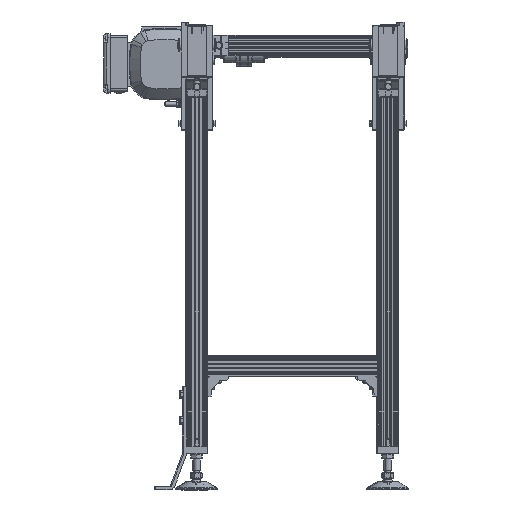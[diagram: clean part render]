
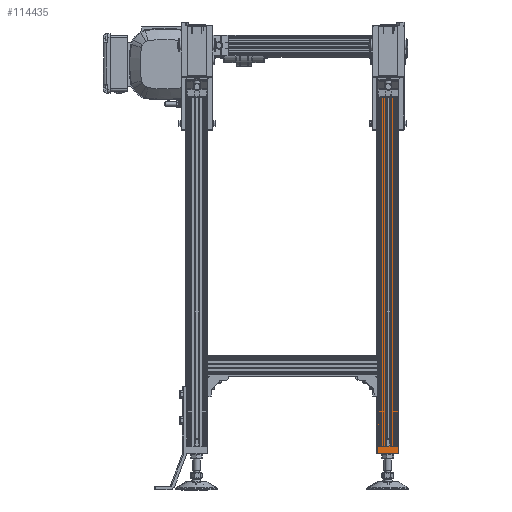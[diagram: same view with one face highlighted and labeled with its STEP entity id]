
A CAD part, left-side view. The second image highlights one B-rep face of the part: STEP entity #114435.
In plain terms, the highlighted planar face has unit normal (-1, 0, 0).
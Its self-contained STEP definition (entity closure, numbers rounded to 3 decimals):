
#10243=FACE_OUTER_BOUND('',#16565,.T.);
#16565=EDGE_LOOP('',(#88122,#88123,#88124,#88125,#88126,#88127,#88128,#88129,
#88130,#88131,#88132,#88133));
#27641=LINE('',#178991,#39323);
#27761=LINE('',#179571,#39443);
#27762=LINE('',#179572,#39444);
#27765=LINE('',#179593,#39447);
#27766=LINE('',#179594,#39448);
#27767=LINE('',#179596,#39449);
#27768=LINE('',#179598,#39450);
#27769=LINE('',#179600,#39451);
#27770=LINE('',#179601,#39452);
#27771=LINE('',#179603,#39453);
#27772=LINE('',#179605,#39454);
#27773=LINE('',#179606,#39455);
#39323=VECTOR('',#144059,15.);
#39443=VECTOR('',#144411,13.45);
#39444=VECTOR('',#144412,13.45);
#39447=VECTOR('',#144441,675.);
#39448=VECTOR('',#144442,1.);
#39449=VECTOR('',#144443,40.);
#39450=VECTOR('',#144444,15.);
#39451=VECTOR('',#144445,1.);
#39452=VECTOR('',#144446,675.);
#39453=VECTOR('',#144447,675.);
#39454=VECTOR('',#144448,11.1);
#39455=VECTOR('',#144449,675.);
#50047=VERTEX_POINT('',#178988);
#50048=VERTEX_POINT('',#178990);
#50131=VERTEX_POINT('',#179335);
#50134=VERTEX_POINT('',#179340);
#50136=VERTEX_POINT('',#179346);
#50140=VERTEX_POINT('',#179355);
#50181=VERTEX_POINT('',#179592);
#50182=VERTEX_POINT('',#179595);
#50183=VERTEX_POINT('',#179597);
#50184=VERTEX_POINT('',#179599);
#50185=VERTEX_POINT('',#179602);
#50186=VERTEX_POINT('',#179604);
#63608=EDGE_CURVE('',#50048,#50047,#27641,.T.);
#63791=EDGE_CURVE('',#50131,#50136,#27761,.T.);
#63792=EDGE_CURVE('',#50140,#50134,#27762,.T.);
#63801=EDGE_CURVE('',#50181,#50136,#27765,.T.);
#63802=EDGE_CURVE('',#50181,#50048,#27766,.T.);
#63803=EDGE_CURVE('',#50047,#50182,#27767,.T.);
#63804=EDGE_CURVE('',#50183,#50182,#27768,.T.);
#63805=EDGE_CURVE('',#50183,#50184,#27769,.T.);
#63806=EDGE_CURVE('',#50184,#50140,#27770,.T.);
#63807=EDGE_CURVE('',#50185,#50134,#27771,.T.);
#63808=EDGE_CURVE('',#50185,#50186,#27772,.T.);
#63809=EDGE_CURVE('',#50186,#50131,#27773,.T.);
#88122=ORIENTED_EDGE('',*,*,#63791,.T.);
#88123=ORIENTED_EDGE('',*,*,#63801,.F.);
#88124=ORIENTED_EDGE('',*,*,#63802,.T.);
#88125=ORIENTED_EDGE('',*,*,#63608,.T.);
#88126=ORIENTED_EDGE('',*,*,#63803,.T.);
#88127=ORIENTED_EDGE('',*,*,#63804,.F.);
#88128=ORIENTED_EDGE('',*,*,#63805,.T.);
#88129=ORIENTED_EDGE('',*,*,#63806,.T.);
#88130=ORIENTED_EDGE('',*,*,#63792,.T.);
#88131=ORIENTED_EDGE('',*,*,#63807,.F.);
#88132=ORIENTED_EDGE('',*,*,#63808,.T.);
#88133=ORIENTED_EDGE('',*,*,#63809,.T.);
#103710=PLANE('',#122224);
#114435=ADVANCED_FACE('',(#10243),#103710,.T.);
#122224=AXIS2_PLACEMENT_3D('',#179591,#144439,#144440);
#144059=DIRECTION('',(0.,0.,-1.));
#144411=DIRECTION('',(0.,1.,0.));
#144412=DIRECTION('',(0.,1.,0.));
#144439=DIRECTION('center_axis',(-1.,0.,0.));
#144440=DIRECTION('ref_axis',(0.,-1.,0.));
#144441=DIRECTION('',(0.,0.,1.));
#144442=DIRECTION('',(0.,1.,0.));
#144443=DIRECTION('',(0.,-1.,0.));
#144444=DIRECTION('',(0.,0.,-1.));
#144445=DIRECTION('',(0.,1.,0.));
#144446=DIRECTION('',(0.,0.,1.));
#144447=DIRECTION('',(0.,0.,1.));
#144448=DIRECTION('',(0.,1.,0.));
#144449=DIRECTION('',(0.,0.,1.));
#178988=CARTESIAN_POINT('',(203.,-165.,-730.));
#178990=CARTESIAN_POINT('',(203.,-165.,-715.));
#178991=CARTESIAN_POINT('',(203.,-165.,-715.));
#179335=CARTESIAN_POINT('',(203.,-179.45,-40.));
#179340=CARTESIAN_POINT('',(203.,-190.55,-40.));
#179346=CARTESIAN_POINT('',(203.,-166.,-40.));
#179355=CARTESIAN_POINT('',(203.,-204.,-40.));
#179571=CARTESIAN_POINT('',(203.,-175.5,-40.));
#179572=CARTESIAN_POINT('',(203.,-175.5,-40.));
#179591=CARTESIAN_POINT('Origin',(203.,-166.,-715.));
#179592=CARTESIAN_POINT('',(203.,-166.,-715.));
#179593=CARTESIAN_POINT('',(203.,-166.,-715.));
#179594=CARTESIAN_POINT('',(203.,-205.,-715.));
#179595=CARTESIAN_POINT('',(203.,-205.,-730.));
#179596=CARTESIAN_POINT('',(203.,-205.,-730.));
#179597=CARTESIAN_POINT('',(203.,-205.,-715.));
#179598=CARTESIAN_POINT('',(203.,-205.,-715.));
#179599=CARTESIAN_POINT('',(203.,-204.,-715.));
#179600=CARTESIAN_POINT('',(203.,-205.,-715.));
#179601=CARTESIAN_POINT('',(203.,-204.,-715.));
#179602=CARTESIAN_POINT('',(203.,-190.55,-715.));
#179603=CARTESIAN_POINT('',(203.,-190.55,-715.));
#179604=CARTESIAN_POINT('',(203.,-179.45,-715.));
#179605=CARTESIAN_POINT('',(203.,-205.,-715.));
#179606=CARTESIAN_POINT('',(203.,-179.45,-715.));
